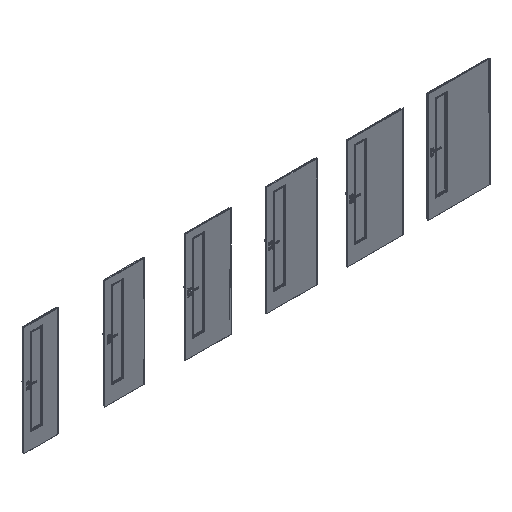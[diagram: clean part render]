
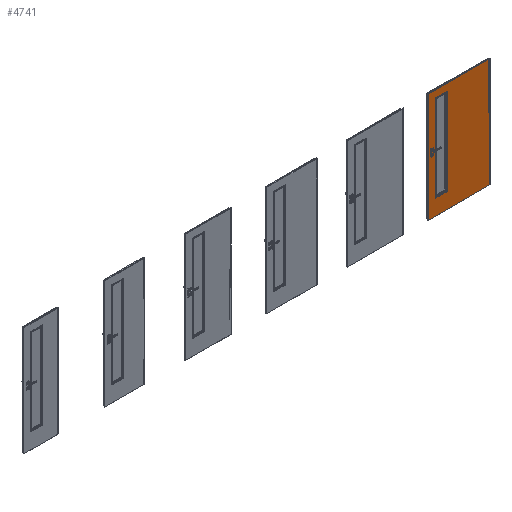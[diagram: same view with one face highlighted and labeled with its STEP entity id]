
A CAD part, isometric view. The second image highlights one B-rep face of the part: STEP entity #4741.
In plain terms, the highlighted planar face has unit normal (0, -1, 0).
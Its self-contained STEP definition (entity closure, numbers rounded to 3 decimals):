
#1015=B_SPLINE_CURVE_WITH_KNOTS('',3,(#65071,#65072,#65073,#65074),
 .UNSPECIFIED.,.F.,.F.,(4,4),(0.,1.),.UNSPECIFIED.);
#1016=B_SPLINE_CURVE_WITH_KNOTS('',3,(#65077,#65078,#65079,#65080),
 .UNSPECIFIED.,.F.,.F.,(4,4),(0.,1.),.UNSPECIFIED.);
#1017=B_SPLINE_CURVE_WITH_KNOTS('',3,(#65082,#65083,#65084,#65085),
 .UNSPECIFIED.,.F.,.F.,(4,4),(0.,1.),.UNSPECIFIED.);
#1018=B_SPLINE_CURVE_WITH_KNOTS('',3,(#65087,#65088,#65089,#65090),
 .UNSPECIFIED.,.F.,.F.,(4,4),(0.,1.),.UNSPECIFIED.);
#1019=B_SPLINE_CURVE_WITH_KNOTS('',3,(#65092,#65093,#65094,#65095),
 .UNSPECIFIED.,.F.,.F.,(4,4),(0.,1.),.UNSPECIFIED.);
#4741=ADVANCED_FACE('',(#7645,#7646),#6189,.F.);
#6189=PLANE('',#30854);
#7645=FACE_BOUND('',#8759,.T.);
#7646=FACE_BOUND('',#8760,.T.);
#8759=EDGE_LOOP('',(#14265,#14266,#14267,#14268,#14269));
#8760=EDGE_LOOP('',(#14270,#14271,#14272,#14273));
#14265=ORIENTED_EDGE('',*,*,#23005,.T.);
#14266=ORIENTED_EDGE('',*,*,#23006,.T.);
#14267=ORIENTED_EDGE('',*,*,#23007,.T.);
#14268=ORIENTED_EDGE('',*,*,#23008,.T.);
#14269=ORIENTED_EDGE('',*,*,#23009,.T.);
#14270=ORIENTED_EDGE('',*,*,#23010,.T.);
#14271=ORIENTED_EDGE('',*,*,#23011,.T.);
#14272=ORIENTED_EDGE('',*,*,#23012,.F.);
#14273=ORIENTED_EDGE('',*,*,#23013,.F.);
#19571=VERTEX_POINT('',#65075);
#19572=VERTEX_POINT('',#65076);
#19573=VERTEX_POINT('',#65081);
#19574=VERTEX_POINT('',#65086);
#19575=VERTEX_POINT('',#65091);
#19576=VERTEX_POINT('',#65097);
#19577=VERTEX_POINT('',#65098);
#19578=VERTEX_POINT('',#65100);
#19579=VERTEX_POINT('',#65102);
#23005=EDGE_CURVE('',#19571,#19572,#1015,.T.);
#23006=EDGE_CURVE('',#19572,#19573,#1016,.T.);
#23007=EDGE_CURVE('',#19573,#19574,#1017,.T.);
#23008=EDGE_CURVE('',#19574,#19575,#1018,.T.);
#23009=EDGE_CURVE('',#19575,#19571,#1019,.T.);
#23010=EDGE_CURVE('',#19576,#19577,#26345,.T.);
#23011=EDGE_CURVE('',#19577,#19578,#26346,.T.);
#23012=EDGE_CURVE('',#19579,#19578,#26347,.T.);
#23013=EDGE_CURVE('',#19576,#19579,#26348,.T.);
#26345=LINE('',#65096,#28745);
#26346=LINE('',#65099,#28746);
#26347=LINE('',#65101,#28747);
#26348=LINE('',#65103,#28748);
#28745=VECTOR('',#35628,1.);
#28746=VECTOR('',#35629,1.);
#28747=VECTOR('',#35630,1.);
#28748=VECTOR('',#35631,1.);
#30854=AXIS2_PLACEMENT_3D('',#65104,#35632,#35633);
#35628=DIRECTION('',(0.,0.,-1.));
#35629=DIRECTION('',(1.,0.,0.));
#35630=DIRECTION('',(0.,0.,-1.));
#35631=DIRECTION('',(1.,0.,0.));
#35632=DIRECTION('',(0.,1.,0.));
#35633=DIRECTION('',(-1.,0.,0.));
#65071=CARTESIAN_POINT('',(7523.7,-39.3,298.3));
#65072=CARTESIAN_POINT('',(7487.967,-39.3,298.3));
#65073=CARTESIAN_POINT('',(7452.233,-39.3,298.3));
#65074=CARTESIAN_POINT('',(7416.5,-39.3,298.3));
#65075=CARTESIAN_POINT('',(7523.7,-39.3,298.3));
#65076=CARTESIAN_POINT('',(7416.5,-39.3,298.3));
#65077=CARTESIAN_POINT('',(7416.5,-39.3,298.3));
#65078=CARTESIAN_POINT('',(7380.767,-39.3,298.3));
#65079=CARTESIAN_POINT('',(7345.033,-39.3,298.3));
#65080=CARTESIAN_POINT('',(7309.3,-39.3,298.3));
#65081=CARTESIAN_POINT('',(7309.3,-39.3,298.3));
#65082=CARTESIAN_POINT('',(7309.3,-39.3,298.3));
#65083=CARTESIAN_POINT('',(7309.3,-39.3,832.1));
#65084=CARTESIAN_POINT('',(7309.3,-39.3,1365.9));
#65085=CARTESIAN_POINT('',(7309.3,-39.3,1899.7));
#65086=CARTESIAN_POINT('',(7309.3,-39.3,1899.7));
#65087=CARTESIAN_POINT('',(7309.3,-39.3,1899.7));
#65088=CARTESIAN_POINT('',(7380.767,-39.3,1899.7));
#65089=CARTESIAN_POINT('',(7452.233,-39.3,1899.7));
#65090=CARTESIAN_POINT('',(7523.7,-39.3,1899.7));
#65091=CARTESIAN_POINT('',(7523.7,-39.3,1899.7));
#65092=CARTESIAN_POINT('',(7523.7,-39.3,1899.7));
#65093=CARTESIAN_POINT('',(7523.7,-39.3,1365.9));
#65094=CARTESIAN_POINT('',(7523.7,-39.3,832.1));
#65095=CARTESIAN_POINT('',(7523.7,-39.3,298.3));
#65096=CARTESIAN_POINT('',(7178.,-39.3,2030.));
#65097=CARTESIAN_POINT('',(7178.,-39.3,2030.));
#65098=CARTESIAN_POINT('',(7178.,-39.3,2.));
#65099=CARTESIAN_POINT('',(7178.,-39.3,2.));
#65100=CARTESIAN_POINT('',(8322.,-39.3,2.));
#65101=CARTESIAN_POINT('',(8322.,-39.3,2030.));
#65102=CARTESIAN_POINT('',(8322.,-39.3,2030.));
#65103=CARTESIAN_POINT('',(7178.,-39.3,2030.));
#65104=CARTESIAN_POINT('',(7178.,-39.3,2030.));
